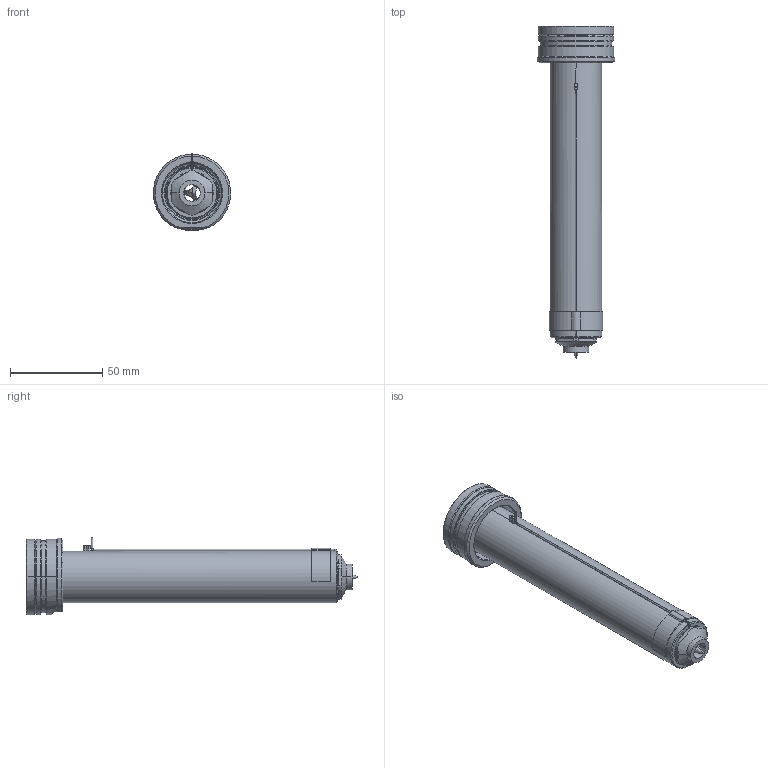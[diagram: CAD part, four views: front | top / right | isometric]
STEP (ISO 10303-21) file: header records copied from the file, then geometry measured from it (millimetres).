
FILE_DESCRIPTION((''),'2;1');
FILE_NAME('EO10_PG-BL_WR_160_SW','2024-02-19T11:10:59',('sundharh'),(''),'CREO PARAMETRIC BY PTC INC, 2023154','CREO PARAMETRIC BY PTC INC, 2023154','');
FILE_SCHEMA(('CONFIG_CONTROL_DESIGN'));
Length unit declared in the file: millimetre
Products named in the file (1): EO10_PG-BL_WR_160_SW
Bounding box: 41.85 x 180 x 42.02 mm (x, y, z)
Volume: 104848.2 mm3; surface area: 28590.2 mm2
Topology: 1 solids, 1 shells, 195 faces, 522 edges, 325 vertices
Faces by surface type: cylinder 78, plane 58, cone 37, torus 17, bspline 3, sphere 2
Entity records: 7170 total; most frequent: CARTESIAN_POINT 2183, DIRECTION 1094, ORIENTED_EDGE 1036, EDGE_CURVE 518, AXIS2_PLACEMENT_3D 456, VERTEX_POINT 325, CIRCLE 264, EDGE_LOOP 211
